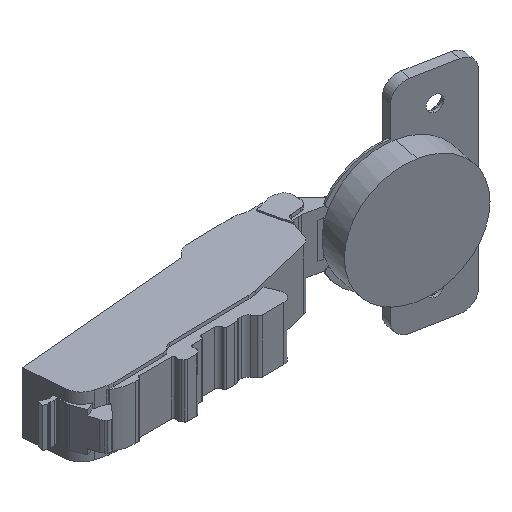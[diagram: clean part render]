
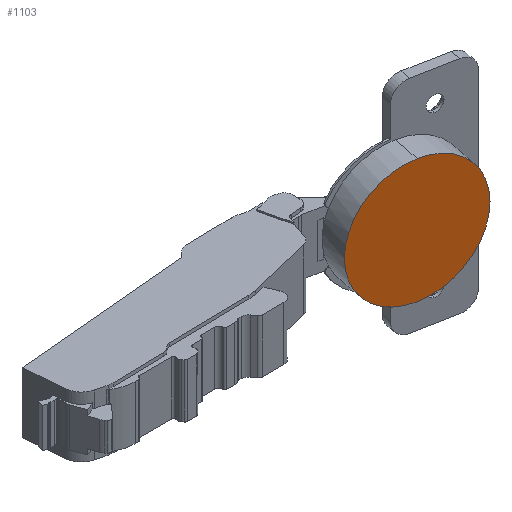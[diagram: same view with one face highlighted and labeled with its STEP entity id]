
A CAD part, isometric view. The second image highlights one B-rep face of the part: STEP entity #1103.
In plain terms, the highlighted planar face has unit normal (-0.193, -0.981, 0).
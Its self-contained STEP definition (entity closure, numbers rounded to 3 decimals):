
#165 = CARTESIAN_POINT ( 'NONE',  ( 14.921, -24.706, -17.4 ) ) ;
#372 = DIRECTION ( 'NONE',  ( 0.193, 0.981, 0. ) ) ;
#492 = AXIS2_PLACEMENT_3D ( 'NONE', #3669, #2200, #3103 ) ;
#887 = PLANE ( 'NONE',  #5860 ) ;
#954 = FACE_OUTER_BOUND ( 'NONE', #2617, .T. ) ;
#1087 = DIRECTION ( 'NONE',  ( -0.193, -0.981, 0. ) ) ;
#1103 = ADVANCED_FACE ( 'NONE', ( #954 ), #887, .F. ) ;
#1118 = DIRECTION ( 'NONE',  ( 0.981, -0.193, 0. ) ) ;
#1310 = VERTEX_POINT ( 'NONE', #2769 ) ;
#2109 = CARTESIAN_POINT ( 'NONE',  ( 14.921, -24.706, 0. ) ) ;
#2200 = DIRECTION ( 'NONE',  ( -0.193, -0.981, 0. ) ) ;
#2345 = ORIENTED_EDGE ( 'NONE', *, *, #3068, .T. ) ;
#2617 = EDGE_LOOP ( 'NONE', ( #4289, #2345 ) ) ;
#2768 = AXIS2_PLACEMENT_3D ( 'NONE', #2109, #1087, #1118 ) ;
#2769 = CARTESIAN_POINT ( 'NONE',  ( 14.921, -24.706, 17.4 ) ) ;
#2911 = CARTESIAN_POINT ( 'NONE',  ( 25.682, -26.82, -7.7 ) ) ;
#3068 = EDGE_CURVE ( 'NONE', #6181, #1310, #4684, .T. ) ;
#3103 = DIRECTION ( 'NONE',  ( 0.981, -0.193, 0. ) ) ;
#3441 = EDGE_CURVE ( 'NONE', #1310, #6181, #5705, .T. ) ;
#3669 = CARTESIAN_POINT ( 'NONE',  ( 14.921, -24.706, 0. ) ) ;
#4289 = ORIENTED_EDGE ( 'NONE', *, *, #3441, .T. ) ;
#4448 = DIRECTION ( 'NONE',  ( 0., 0., 1. ) ) ;
#4684 = CIRCLE ( 'NONE', #2768, 17.4 ) ;
#5705 = CIRCLE ( 'NONE', #492, 17.4 ) ;
#5860 = AXIS2_PLACEMENT_3D ( 'NONE', #2911, #372, #4448 ) ;
#6181 = VERTEX_POINT ( 'NONE', #165 ) ;
